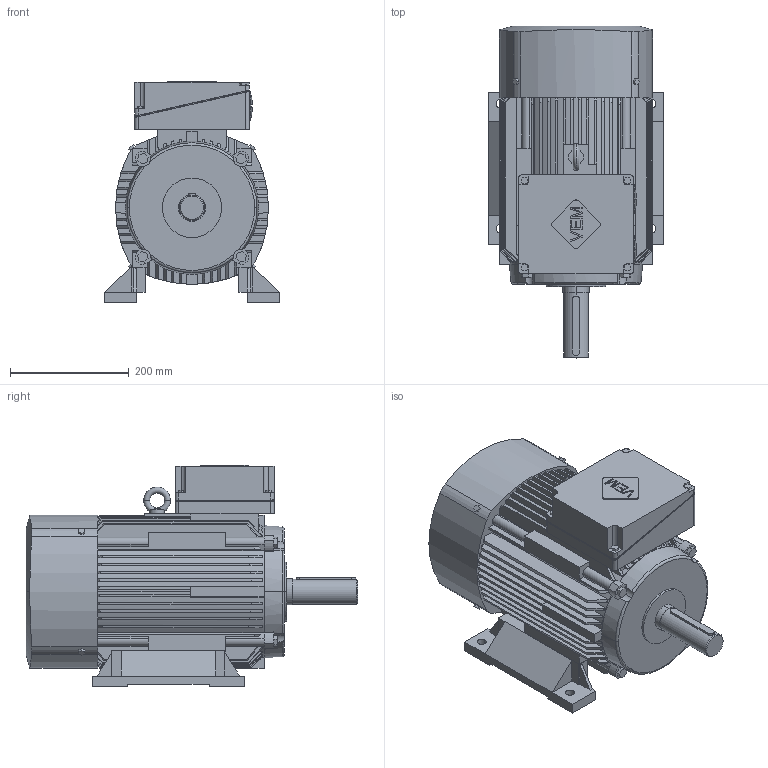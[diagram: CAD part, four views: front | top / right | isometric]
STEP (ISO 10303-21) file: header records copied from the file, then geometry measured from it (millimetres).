
FILE_DESCRIPTION(('no description'),'unknown implementation level');
FILE_NAME('t9b686e9553404e18b8caa81f9a854759.stp',' ',('VEM motors GmbH'),('CADClick - KiM GmbH - www.kimweb.de'),'unknown preprocess','ACIS','unknown authorization');
FILE_SCHEMA(('automotive_design'));
Length unit declared in the file: millimetre
Products named in the file (5): 1; 2; 3; 4; 5
Bounding box: 296 x 558.5 x 373 mm (x, y, z)
Volume: 24624444.3 mm3; surface area: 1159704 mm2
Topology: 5 solids, 5 shells, 680 faces, 1918 edges, 1268 vertices
Faces by surface type: plane 418, cylinder 148, cone 96, torus 14, bspline 4
Entity records: 46380 total; most frequent: CARTESIAN_POINT 7729, STYLED_ITEM 3871, PRESENTATION_STYLE_ASSIGNMENT 3871, COLOUR_RGB 3871, ORIENTED_EDGE 3836, DIRECTION 3352, EDGE_CURVE 1918, CURVE_STYLE 1918
